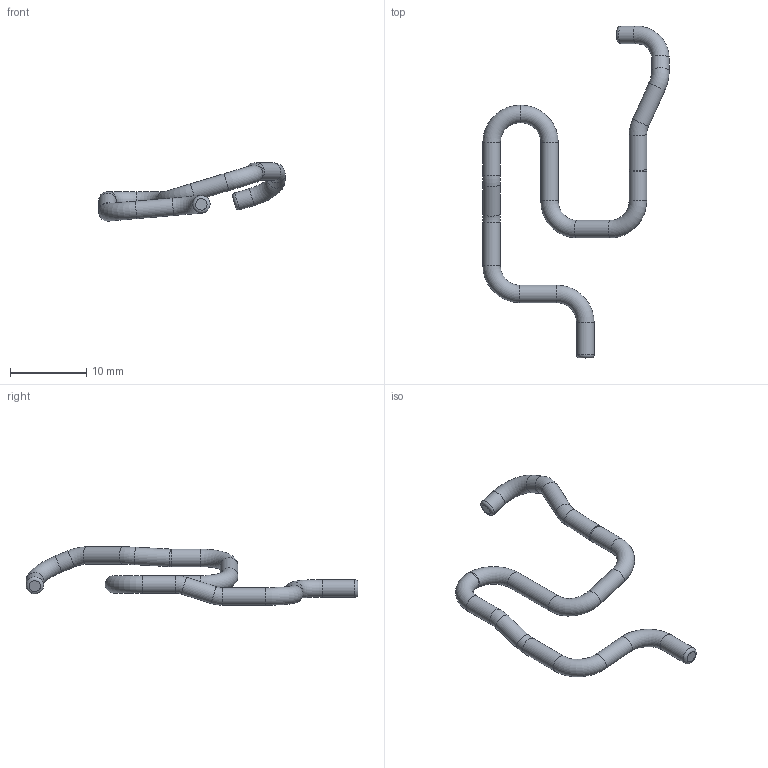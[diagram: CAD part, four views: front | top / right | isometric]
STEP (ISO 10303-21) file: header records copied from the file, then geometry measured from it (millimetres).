
FILE_DESCRIPTION(('Open CASCADE Model'),'2;1');
FILE_NAME('CUT_FACTORY_BATTERY_LEAD_2_INWARD_CLEARANCE_0p4_FINAL', '2026-09-15T14:48:48',('Author'),('Open CASCADE'), 'Open CASCADE STEP processor 7.9','build123d','Unknown');
FILE_SCHEMA(('AUTOMOTIVE_DESIGN { 1 0 10303 214 1 1 1 1 }'));
Length unit declared in the file: millimetre
Products named in the file (1): CUT_FACTORY_BATTERY_LEAD_2_INWARD_CLEARANCE_0p4_FINAL
Bounding box: 24.45 x 43.55 x 7.65 mm (x, y, z)
Volume: 418.3 mm3; surface area: 734 mm2
Topology: 1 solids, 1 shells, 29 faces, 55 edges, 28 vertices
Faces by surface type: torus 14, cylinder 13, plane 2
Full cylindrical faces by diameter (mm): 2.3 x13
Entity records: 1448 total; most frequent: DIRECTION 267, CARTESIAN_POINT 223, LINE 121, VECTOR 121, ORIENTED_EDGE 110, PCURVE 110, DEFINITIONAL_REPRESENTATION 110, AXIS2_PLACEMENT_3D 72
